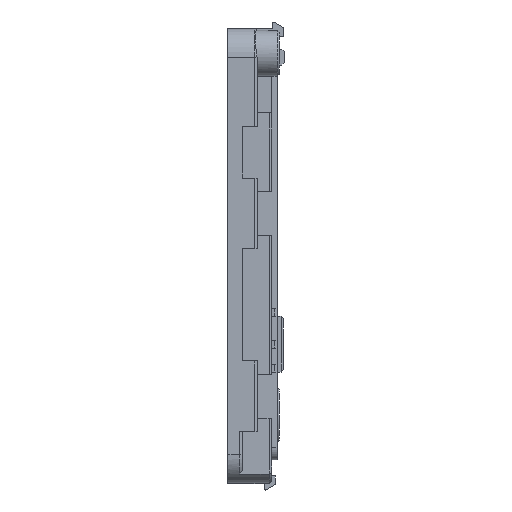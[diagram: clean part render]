
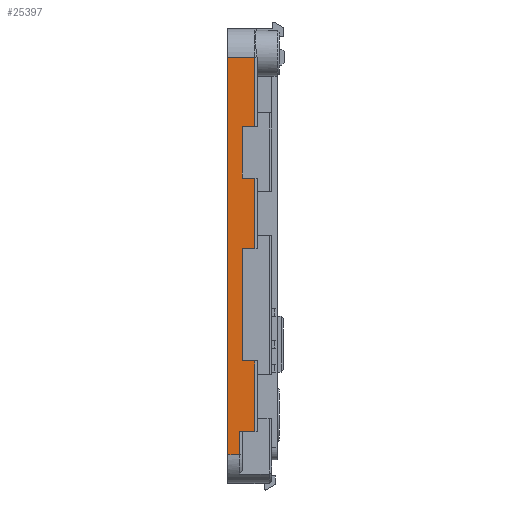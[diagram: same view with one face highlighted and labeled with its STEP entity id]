
A CAD part, left-side view. The second image highlights one B-rep face of the part: STEP entity #25397.
In plain terms, the highlighted planar face has unit normal (-1, 0, 0).
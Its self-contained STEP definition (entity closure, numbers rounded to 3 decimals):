
#87 = VERTEX_POINT ( 'NONE', #25191 ) ;
#97 = DIRECTION ( 'NONE',  ( 0., -1., 0. ) ) ;
#107 = CARTESIAN_POINT ( 'NONE',  ( -31.125, 0.3, 25. ) ) ;
#154 = EDGE_CURVE ( 'NONE', #25603, #602, #16858, .T. ) ;
#299 = VERTEX_POINT ( 'NONE', #2062 ) ;
#457 = VECTOR ( 'NONE', #25501, 1000. ) ;
#469 = LINE ( 'NONE', #14062, #7292 ) ;
#602 = VERTEX_POINT ( 'NONE', #4257 ) ;
#950 = LINE ( 'NONE', #23730, #14110 ) ;
#1250 = CARTESIAN_POINT ( 'NONE',  ( -31.125, 1.9, 9.8 ) ) ;
#1643 = EDGE_CURVE ( 'NONE', #7535, #5362, #13684, .T. ) ;
#2062 = CARTESIAN_POINT ( 'NONE',  ( -31.125, 2.2, -22.1 ) ) ;
#2213 = CARTESIAN_POINT ( 'NONE',  ( -31.125, 1.9, 0.9 ) ) ;
#2242 = ORIENTED_EDGE ( 'NONE', *, *, #21039, .T. ) ;
#2909 = VECTOR ( 'NONE', #28968, 1000. ) ;
#2954 = AXIS2_PLACEMENT_3D ( 'NONE', #8916, #6505, #15714 ) ;
#3138 = VECTOR ( 'NONE', #18075, 1000. ) ;
#3162 = ORIENTED_EDGE ( 'NONE', *, *, #1643, .T. ) ;
#3247 = ORIENTED_EDGE ( 'NONE', *, *, #15653, .F. ) ;
#3314 = CARTESIAN_POINT ( 'NONE',  ( -31.125, 0.3, -13.2 ) ) ;
#3344 = EDGE_CURVE ( 'NONE', #7535, #19834, #18621, .T. ) ;
#3541 = LINE ( 'NONE', #10340, #23616 ) ;
#3566 = CARTESIAN_POINT ( 'NONE',  ( -31.125, 1.9, 16.3 ) ) ;
#3593 = ORIENTED_EDGE ( 'NONE', *, *, #154, .T. ) ;
#4257 = CARTESIAN_POINT ( 'NONE',  ( -31.125, 0.3, 16.3 ) ) ;
#4901 = EDGE_CURVE ( 'NONE', #5967, #299, #8120, .T. ) ;
#4935 = ORIENTED_EDGE ( 'NONE', *, *, #26685, .T. ) ;
#5362 = VERTEX_POINT ( 'NONE', #14595 ) ;
#5407 = VECTOR ( 'NONE', #7802, 1000. ) ;
#5796 = DIRECTION ( 'NONE',  ( 0., 0., 1. ) ) ;
#5867 = ORIENTED_EDGE ( 'NONE', *, *, #4901, .F. ) ;
#5967 = VERTEX_POINT ( 'NONE', #23120 ) ;
#6505 = DIRECTION ( 'NONE',  ( 1., 0., 0. ) ) ;
#7222 = LINE ( 'NONE', #11905, #457 ) ;
#7292 = VECTOR ( 'NONE', #23697, 1000. ) ;
#7535 = VERTEX_POINT ( 'NONE', #18714 ) ;
#7543 = CARTESIAN_POINT ( 'NONE',  ( -31.125, 1.9, 16.3 ) ) ;
#7802 = DIRECTION ( 'NONE',  ( 0., 1., 0. ) ) ;
#8120 = LINE ( 'NONE', #24120, #12558 ) ;
#8149 = EDGE_CURVE ( 'NONE', #25659, #19834, #19269, .T. ) ;
#8226 = ORIENTED_EDGE ( 'NONE', *, *, #3344, .F. ) ;
#8916 = CARTESIAN_POINT ( 'NONE',  ( -31.125, 3.8, 28.7 ) ) ;
#9016 = VECTOR ( 'NONE', #97, 1000. ) ;
#9331 = CARTESIAN_POINT ( 'NONE',  ( -31.125, 3.7, 25. ) ) ;
#9655 = CARTESIAN_POINT ( 'NONE',  ( -31.125, 3.8, 25. ) ) ;
#9711 = EDGE_CURVE ( 'NONE', #25603, #12782, #10986, .T. ) ;
#9848 = CARTESIAN_POINT ( 'NONE',  ( -31.125, 1.9, 0.9 ) ) ;
#10006 = LINE ( 'NONE', #1250, #25767 ) ;
#10340 = CARTESIAN_POINT ( 'NONE',  ( -31.125, 0.3, 28.7 ) ) ;
#10964 = VECTOR ( 'NONE', #28486, 1000. ) ;
#10986 = LINE ( 'NONE', #11287, #3138 ) ;
#11043 = CARTESIAN_POINT ( 'NONE',  ( -31.125, 2.2, -25. ) ) ;
#11287 = CARTESIAN_POINT ( 'NONE',  ( -31.125, 1.9, 17.3 ) ) ;
#11905 = CARTESIAN_POINT ( 'NONE',  ( -31.125, 3.8, -25. ) ) ;
#12558 = VECTOR ( 'NONE', #19594, 1000. ) ;
#12782 = VERTEX_POINT ( 'NONE', #20990 ) ;
#13273 = CARTESIAN_POINT ( 'NONE',  ( -31.125, 1.9, -13.2 ) ) ;
#13684 = LINE ( 'NONE', #2213, #9016 ) ;
#14062 = CARTESIAN_POINT ( 'NONE',  ( -31.125, 0.3, 28.7 ) ) ;
#14110 = VECTOR ( 'NONE', #16639, 1000. ) ;
#14318 = LINE ( 'NONE', #19136, #27581 ) ;
#14418 = EDGE_CURVE ( 'NONE', #14506, #28664, #7222, .T. ) ;
#14506 = VERTEX_POINT ( 'NONE', #24557 ) ;
#14595 = CARTESIAN_POINT ( 'NONE',  ( -31.125, 0.3, 0.9 ) ) ;
#14670 = ORIENTED_EDGE ( 'NONE', *, *, #19837, .T. ) ;
#14891 = VECTOR ( 'NONE', #21321, 1000. ) ;
#14981 = DIRECTION ( 'NONE',  ( 0., -1., 0. ) ) ;
#15075 = LINE ( 'NONE', #17496, #2909 ) ;
#15653 = EDGE_CURVE ( 'NONE', #14506, #27041, #14318, .T. ) ;
#15714 = DIRECTION ( 'NONE',  ( 0., 0., -1. ) ) ;
#16429 = EDGE_CURVE ( 'NONE', #602, #17123, #950, .T. ) ;
#16561 = CARTESIAN_POINT ( 'NONE',  ( -31.125, 3.8, -13.2 ) ) ;
#16639 = DIRECTION ( 'NONE',  ( 0., 0., 1. ) ) ;
#16858 = LINE ( 'NONE', #3566, #10964 ) ;
#17123 = VERTEX_POINT ( 'NONE', #107 ) ;
#17496 = CARTESIAN_POINT ( 'NONE',  ( -31.125, 2.2, 28.7 ) ) ;
#17620 = EDGE_CURVE ( 'NONE', #12782, #87, #10006, .T. ) ;
#18075 = DIRECTION ( 'NONE',  ( 0., 0., -1. ) ) ;
#18471 = EDGE_LOOP ( 'NONE', ( #23809, #28295, #5867, #2242, #21192, #8226, #3162, #14670, #26894, #19225, #3593, #28262, #4935, #3247 ) ) ;
#18621 = LINE ( 'NONE', #9848, #14891 ) ;
#18714 = CARTESIAN_POINT ( 'NONE',  ( -31.125, 1.9, 0.9 ) ) ;
#18721 = LINE ( 'NONE', #9655, #25742 ) ;
#19136 = CARTESIAN_POINT ( 'NONE',  ( -31.125, 3.7, 28.7 ) ) ;
#19225 = ORIENTED_EDGE ( 'NONE', *, *, #9711, .F. ) ;
#19269 = LINE ( 'NONE', #16561, #5407 ) ;
#19594 = DIRECTION ( 'NONE',  ( 0., 1., 0. ) ) ;
#19834 = VERTEX_POINT ( 'NONE', #13273 ) ;
#19837 = EDGE_CURVE ( 'NONE', #5362, #87, #3541, .T. ) ;
#20989 = DIRECTION ( 'NONE',  ( 0., 1., 0. ) ) ;
#20990 = CARTESIAN_POINT ( 'NONE',  ( -31.125, 1.9, 9.8 ) ) ;
#21039 = EDGE_CURVE ( 'NONE', #5967, #25659, #469, .T. ) ;
#21192 = ORIENTED_EDGE ( 'NONE', *, *, #8149, .T. ) ;
#21321 = DIRECTION ( 'NONE',  ( 0., 0., -1. ) ) ;
#22187 = FACE_OUTER_BOUND ( 'NONE', #18471, .T. ) ;
#22490 = PLANE ( 'NONE',  #2954 ) ;
#23120 = CARTESIAN_POINT ( 'NONE',  ( -31.125, 0.3, -22.1 ) ) ;
#23616 = VECTOR ( 'NONE', #5796, 1000. ) ;
#23697 = DIRECTION ( 'NONE',  ( 0., 0., 1. ) ) ;
#23730 = CARTESIAN_POINT ( 'NONE',  ( -31.125, 0.3, 28.7 ) ) ;
#23809 = ORIENTED_EDGE ( 'NONE', *, *, #14418, .T. ) ;
#24120 = CARTESIAN_POINT ( 'NONE',  ( -31.125, -7.557, -22.1 ) ) ;
#24539 = EDGE_CURVE ( 'NONE', #28664, #299, #15075, .T. ) ;
#24557 = CARTESIAN_POINT ( 'NONE',  ( -31.125, 3.7, -25. ) ) ;
#25191 = CARTESIAN_POINT ( 'NONE',  ( -31.125, 0.3, 9.8 ) ) ;
#25397 = ADVANCED_FACE ( 'NONE', ( #22187 ), #22490, .F. ) ;
#25501 = DIRECTION ( 'NONE',  ( 0., -1., 0. ) ) ;
#25603 = VERTEX_POINT ( 'NONE', #7543 ) ;
#25659 = VERTEX_POINT ( 'NONE', #3314 ) ;
#25742 = VECTOR ( 'NONE', #20989, 1000. ) ;
#25767 = VECTOR ( 'NONE', #14981, 1000. ) ;
#26685 = EDGE_CURVE ( 'NONE', #17123, #27041, #18721, .T. ) ;
#26894 = ORIENTED_EDGE ( 'NONE', *, *, #17620, .F. ) ;
#27041 = VERTEX_POINT ( 'NONE', #9331 ) ;
#27581 = VECTOR ( 'NONE', #28361, 1000. ) ;
#28262 = ORIENTED_EDGE ( 'NONE', *, *, #16429, .T. ) ;
#28295 = ORIENTED_EDGE ( 'NONE', *, *, #24539, .T. ) ;
#28361 = DIRECTION ( 'NONE',  ( 0., 0., 1. ) ) ;
#28486 = DIRECTION ( 'NONE',  ( 0., -1., 0. ) ) ;
#28664 = VERTEX_POINT ( 'NONE', #11043 ) ;
#28968 = DIRECTION ( 'NONE',  ( 0., 0., 1. ) ) ;
